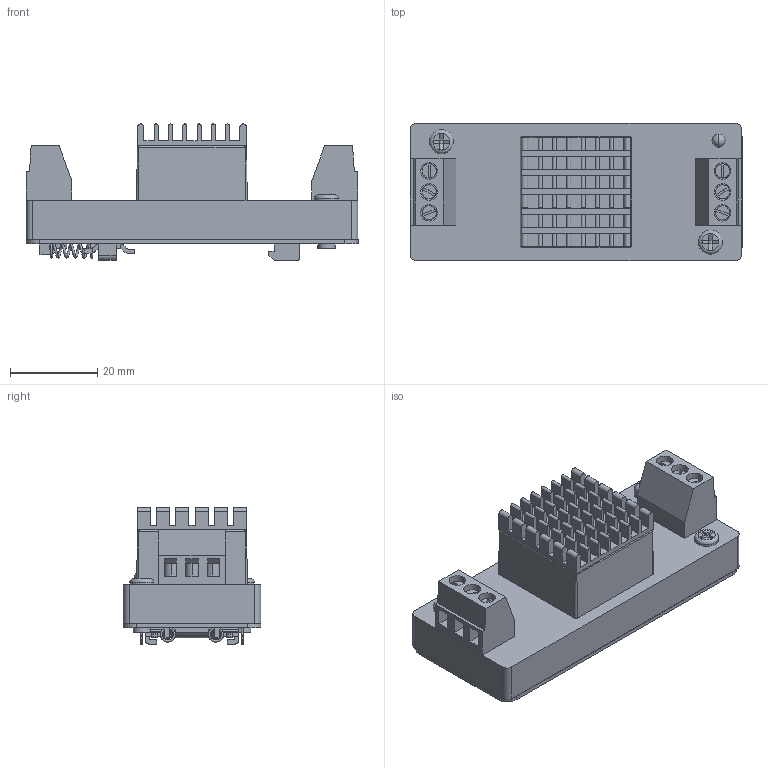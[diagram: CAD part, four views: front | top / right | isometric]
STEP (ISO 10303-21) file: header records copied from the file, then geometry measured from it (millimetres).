
FILE_DESCRIPTION(/* description */ (''),/* implementation_level */ '2;1');
FILE_NAME(/* name */ 'PFD30-XXSXXA3(R)2-(TSH).stp',/* time_stamp */ '2025-09-09T10:25:19+08:00',/* author */ (''),/* organization */ (''),/* preprocessor_version */ 'ST-DEVELOPER v16',/* originating_system */ 'SIEMENS PLM Software NX 10.0',/* authorisation */ '123');
FILE_SCHEMA (('AUTOMOTIVE_DESIGN { 1 0 10303 214 3 1 1 1 }'));
Length unit declared in the file: millimetre
Products named in the file (1): admi9E78CA83aq25
Bounding box: 76.05 x 31.51 x 31.2 mm (x, y, z)
Volume: 36071.1 mm3; surface area: 21927.7 mm2
Topology: 23 solids, 23 shells, 658 faces, 1790 edges, 1197 vertices
Faces by surface type: plane 429, cylinder 172, bspline 23, extrusion 16, sphere 8, torus 6, cone 4
Full cylindrical faces by diameter (mm): 1 x12, 3 x42, 3.995 x2, 5.5 x2
Entity records: 40007 total; most frequent: CARTESIAN_POINT 23702, ORIENTED_EDGE 3186, DIRECTION 2955, EDGE_CURVE 1593, VECTOR 1175, LINE 1159, VERTEX_POINT 1057, AXIS2_PLACEMENT_3D 890
